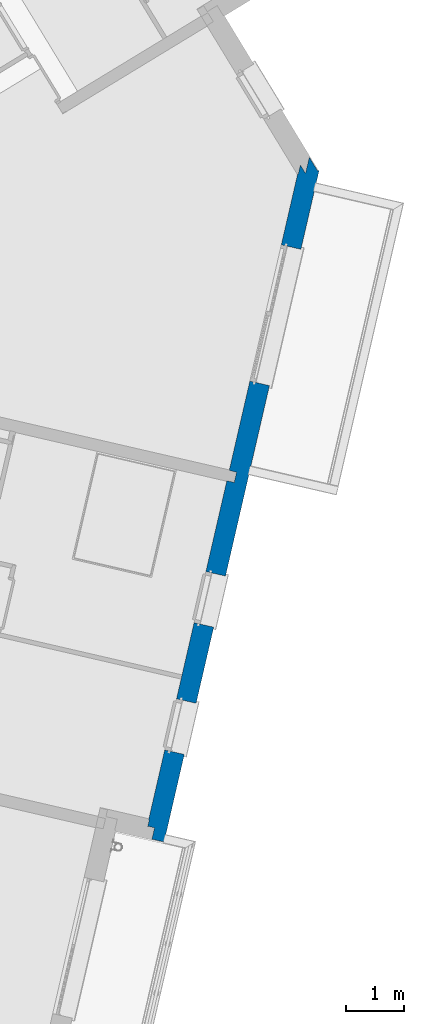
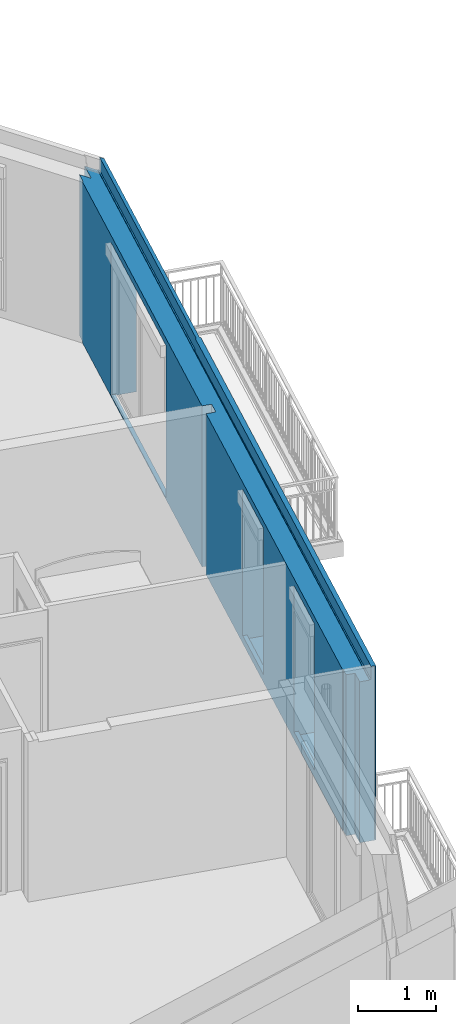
# One storey, part 37 of 90: 1 wall, 3 openings.
"""IFC2X3 building model written with IfcOpenShell, lengths in metres."""

from ifc_helpers import new_model, entity, si_unit, converted_unit, derived_unit, money_unit, direction, frame, origin_with_axes, place, context, subcontext, project, spatial, faceted_brep, material, material_list, type_object, element, save


model = new_model("IFC2X3")

# Units and contexts
model_context = context("Model", 3, precision=1e-05, world=origin_with_axes(), true_north=direction((0.0, 1.0)))
body_context = subcontext(model_context, "Body", "Model", "MODEL_VIEW")
ifc_project = project(units=[si_unit("LENGTHUNIT", "METRE"), si_unit("AREAUNIT", "SQUARE_METRE"), si_unit("VOLUMEUNIT", "CUBIC_METRE"), converted_unit("PLANEANGLEUNIT", "DEGREE", entity("IfcPlaneAngleMeasure", 0.0174532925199), si_unit("PLANEANGLEUNIT", "RADIAN"), dimensions=[0, 0, 0, 0, 0, 0, 0]), si_unit("SOLIDANGLEUNIT", "STERADIAN"), money_unit("EUR"), converted_unit("TIMEUNIT", "Year", entity("IfcTimeMeasure", 31556926.0), si_unit("TIMEUNIT", "SECOND"), dimensions=[0, 0, 1, 0, 0, 0, 0]), si_unit("MASSUNIT", "GRAM", prefix="KILO"), si_unit("THERMODYNAMICTEMPERATUREUNIT", "DEGREE_CELSIUS"), si_unit("LUMINOUSINTENSITYUNIT", "LUMEN"), si_unit("ENERGYUNIT", "JOULE", prefix="MEGA"), derived_unit("THERMALCONDUCTANCEUNIT", [(si_unit("POWERUNIT", "WATT"), 1), (si_unit("LENGTHUNIT", "METRE"), -1), (si_unit("THERMODYNAMICTEMPERATUREUNIT", "KELVIN"), -1)]), derived_unit("SPECIFICHEATCAPACITYUNIT", [(si_unit("ENERGYUNIT", "JOULE"), 1), (si_unit("MASSUNIT", "GRAM", prefix="KILO"), -1), (si_unit("THERMODYNAMICTEMPERATUREUNIT", "KELVIN"), -1)]), derived_unit("MASSDENSITYUNIT", [(si_unit("MASSUNIT", "GRAM", prefix="KILO"), 1), (si_unit("VOLUMEUNIT", "CUBIC_METRE"), -1)])], contexts=[model_context])

# Site, building, storey
site_placement = place(None, origin_with_axes())
site = spatial("IfcSite", under=ifc_project, at=site_placement, Name="Site", CompositionType="ELEMENT")
building_placement = place(site_placement, origin_with_axes())
building = spatial("IfcBuilding", under=site, at=building_placement, Name="Bâtiment", CompositionType="ELEMENT")
storey_placement = place(building_placement, frame((0.0, 0.0, 2.72), z_axis=(0.0, 0.0, 1.0), x_axis=(1.0, 0.0, 0.0)))
storey = spatial("IfcBuildingStorey", under=building, at=storey_placement, Name="R+1", CompositionType="ELEMENT", Elevation=2.72)

# Wall, openings
ifc_material_1 = material(Name="Finition ext - Crépis")
ifc_material_2 = material(Name="Béton cellulaire")
ifc_material_3 = material(Name="Mortier")
ifc_material_4 = material(Name="Isolation - Polystyrène expansé")
ifc_material_5 = material(Name="Bloc ELITHERM")
ifc_material_6 = material(Name="Isolation - Polystyrène extrudé")
ifc_material_7 = material(Name="Finition int - Plaque de plâtre")
ifc_material_list = material_list([ifc_material_1, ifc_material_2, ifc_material_3, ifc_material_4, ifc_material_5, ifc_material_6, ifc_material_7])
wall_type = type_object("IfcWallType", Name="Mur ALKERN + planelle 21 345 x 2720", PredefinedType="USERDEFINED")
wall_placement = place(storey_placement, frame((2.3784914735, 17.9848596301, 0.0), z_axis=(0.0, 0.0, 1.0), x_axis=(-0.22487619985, -0.974387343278, 0.0)))
wall = element("IfcWall", 1, at=wall_placement, inside=storey, type_object=wall_type, material=ifc_material_list, Name="Mue bloc ALKERN isolé", ObjectType="SOLIDWALL", context=body_context, shape_type="Brep", body=[
    faceted_brep([(7.13048448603, -0.0149999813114, 0.12), (7.13048448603, 6.76768197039e-09, 0.12), (7.13048448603, 6.76768197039e-09, 2.22), (7.13048448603, -0.0149999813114, 2.22), (7.13048448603, 3.70673491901e-09, 0.06), (7.13048448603, -0.0150000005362, 0.06), (11.6895867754, 6.76768041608e-09, 0.0193762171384), (11.6796062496, 6.76767908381e-09, 0.01), (11.6796062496, 0.0, 0.0), (5.35022065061, 3.70673580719e-09, 0.0), (5.35022065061, 6.76768197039e-09, 0.01), (5.34024012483, 6.76768219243e-09, 0.0193762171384), (5.2002011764, 6.76768263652e-09, 0.0106237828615), (5.19022065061, 3.79827413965e-09, 0.0), (3.77543741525, 4.60769511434e-09, 0.0), (3.77543741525, 2.08871586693e-10, 0.02), (3.77543741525, 2.08871808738e-10, 2.22), (1.37543741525, 2.08872474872e-10, 2.22), (1.37543741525, 2.08872474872e-10, 0.02), (1.37543741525, 5.98077454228e-09, 0.0), (0.360654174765, 6.56134879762e-09, 0.0), (0.35067364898, 6.76768419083e-09, 0.0106237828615), (0.21063470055, 6.76768419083e-09, 0.0193762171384), (0.200654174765, 6.76768419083e-09, 0.01), (0.200654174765, 6.65288757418e-09, 0.0), (1.4466266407e-08, 6.76768374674e-09, 0.0), (9.62828750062e-09, -1.84539121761e-08, 2.51), (4.17307971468, 2.08871364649e-10, 2.51), (4.17307971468, 2.08871364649e-10, 2.51999999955), (4.17307971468, 2.08871364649e-10, 2.60999999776), (4.17307971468, 2.08871364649e-10, 2.70288199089), (4.17307971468, 2.08871364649e-10, 2.72), (11.8292206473, 0.0, 2.72), (11.8292206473, 0.0, 0.0106491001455), (10.2716642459, 2.08869144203e-10, 0.06), (10.2716642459, 2.08869144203e-10, 0.12), (10.2716642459, 2.08868700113e-10, 2.22), (9.37166424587, 2.08869144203e-10, 2.22), (9.37166424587, 2.08869366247e-10, 0.12), (9.37166424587, 2.08869588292e-10, 0.06), (8.03048448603, 3.7067353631e-09, 0.06), (8.03048448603, 6.7676815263e-09, 0.12), (8.03048448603, 6.76768108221e-09, 2.22), (8.03048448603, -0.0149999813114, 2.22), (4.17307971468, -0.0150000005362, 2.72), (4.17307971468, -0.0150000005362, 2.70288199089), (4.17307971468, -0.0150000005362, 2.60999999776), (4.17307971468, -0.0150000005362, 2.51999999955), (4.17307971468, -0.0150000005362, 2.51), (-0.0153781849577, -0.0150000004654, 2.51), (-0.0153781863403, -0.0149999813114, 0.0), (0.200654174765, -0.0150000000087, 0.0), (0.200654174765, -0.0150000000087, 0.01), (0.21063470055, -0.0150000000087, 0.0193762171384), (0.35067364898, -0.0150000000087, 0.0106237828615), (0.360654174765, -0.0150000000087, 0.0), (1.37543741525, -0.0149999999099, 0.0), (1.37543741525, -0.0149999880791, 0.02), (1.37543741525, -0.0149999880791, 2.22), (3.77543741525, -0.0149999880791, 2.22), (3.77543741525, -0.0149999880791, 0.02), (3.77543741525, -0.0149999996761, 0.0), (5.19022065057, -0.0149999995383, 0.0), (5.20020117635, -0.0149999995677, 0.0106237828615), (5.34024012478, -0.0149999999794, 0.0193762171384), (5.35022065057, -0.0150000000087, 0.01), (5.35022065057, -0.0150000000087, 0.0), (11.6796062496, -0.0150000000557, 0.0), (11.6796062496, -0.0150000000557, 0.01), (11.6895867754, -0.0150000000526, 0.0193762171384), (11.8292206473, -0.0150000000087, 0.0106491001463), (11.8292206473, -0.0149999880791, 2.72), (9.37166424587, -0.0150000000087, 0.06), (9.37166424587, -0.0149999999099, 0.12), (9.37166424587, -0.0149999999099, 2.22), (10.2716642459, -0.0149999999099, 2.22), (10.2716642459, -0.0149999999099, 0.12), (10.2716642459, -0.0150000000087, 0.06), (8.03048448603, -0.0149999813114, 0.12), (8.03048448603, -0.0150000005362, 0.06)], [[[0, 1, 2, 3]], [[4, 1, 0, 5]], [[6, 7, 8, 9, 10, 11, 12, 13, 14, 15, 16, 17, 18, 19, 20, 21, 22, 23, 24, 25, 26, 27, 28, 29, 30, 31, 32, 33], [34, 35, 36, 37, 38, 39], [40, 41, 42, 2, 1, 4]], [[42, 43, 3, 2]], [[44, 45, 46, 47, 48, 49, 50, 51, 52, 53, 54, 55, 56, 57, 58, 59, 60, 61, 62, 63, 64, 65, 66, 67, 68, 69, 70, 71], [72, 73, 74, 75, 76, 77], [5, 0, 3, 43, 78, 79]], [[40, 4, 5, 79]], [[6, 69, 68, 7]], [[7, 68, 67, 8]], [[9, 8, 67, 66]], [[9, 66, 65, 10]], [[10, 65, 64, 11]], [[11, 64, 63, 12]], [[13, 12, 63, 62]], [[61, 14, 13, 62]], [[60, 15, 14, 61]], [[15, 60, 59, 16]], [[16, 59, 58, 17]], [[57, 18, 17, 58]], [[19, 18, 57, 56]], [[19, 56, 55, 20]], [[20, 55, 54, 21]], [[21, 54, 53, 22]], [[22, 53, 52, 23]], [[23, 52, 51, 24]], [[51, 50, 25, 24]], [[26, 25, 50, 49]], [[26, 49, 48, 27]], [[28, 27, 48, 47]], [[29, 28, 47, 46]], [[30, 29, 46, 45]], [[31, 30, 45, 44]], [[44, 71, 32, 31]], [[33, 32, 71, 70]], [[33, 70, 69, 6]], [[34, 77, 76, 35]], [[75, 36, 35, 76]], [[74, 37, 36, 75]], [[37, 74, 73, 38]], [[73, 72, 39, 38]], [[72, 77, 34, 39]], [[78, 41, 40, 79]], [[41, 78, 43, 42]]]),
    faceted_brep([(0.00610408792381, -0.0149999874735, 2.70288199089), (0.00610408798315, -0.0149999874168, 2.71999999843), (11.8142206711, -0.0149999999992, 2.72), (11.8142206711, -0.015, 2.51999999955), (0.00610408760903, -0.0149999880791, 2.51999999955), (0.00610408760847, -0.014999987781, 2.60999999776), (-0.0431062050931, -0.0629999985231, 2.71999999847), (-0.0431062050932, -0.0629999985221, 2.70288199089), (11.8142206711, -0.0629999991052, 2.72), (11.8142206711, -0.0629999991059, 2.51999999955), (-0.0431062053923, -0.0629999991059, 2.5199999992), (-0.0431062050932, -0.0629999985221, 2.60999999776)], [[[0, 1, 2, 3, 4, 5]], [[6, 1, 0, 7]], [[1, 6, 8, 2]], [[3, 2, 8, 9]], [[10, 4, 3, 9]], [[11, 5, 4, 10]], [[7, 0, 5, 11]], [[6, 7, 11, 10, 9, 8]]]),
    faceted_brep([(0.00610408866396, -0.0149999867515, 2.50999999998), (0.00610408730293, -0.0149999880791, 2.51999999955), (11.8142206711, -0.015, 2.51999999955), (11.8142206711, -0.0149999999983, 2.50999999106), (-0.0636104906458, -0.083, 2.51999999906), (-0.0636104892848, -0.0829999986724, 2.51000000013), (11.8142206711, -0.083, 2.51999999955), (11.8142206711, -0.0829999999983, 2.50999999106)], [[[0, 1, 2, 3]], [[4, 1, 0, 5]], [[1, 4, 6, 2]], [[3, 2, 6, 7]], [[5, 0, 3, 7]], [[4, 5, 7, 6]]]),
    faceted_brep([(4.17307971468, -0.0759631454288, 2.70288199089), (4.17307971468, -0.0759631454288, 2.72), (4.17307971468, -0.0629999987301, 2.71999999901), (4.17307971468, -0.0629999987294, 2.70288199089), (11.7662206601, -0.0631402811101, 2.72), (4.17307971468, -0.0759631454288, 2.60999999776), (4.17307971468, -0.0759631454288, 2.51999999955), (11.7662206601, -0.0631402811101, 2.51999999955), (11.7662206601, -0.0630000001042, 2.72), (4.17307971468, -0.0629999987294, 2.60999999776), (11.7662206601, -0.0630000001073, 2.51999999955), (4.17307971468, -0.0629999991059, 2.51999999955)], [[[0, 1, 2, 3]], [[4, 1, 0, 5, 6, 7]], [[1, 4, 8, 2]], [[9, 3, 2, 8, 10, 11]], [[5, 0, 3, 9]], [[6, 5, 9, 11]], [[7, 6, 11, 10]], [[4, 7, 10, 8]]]),
    faceted_brep([(7.13048448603, -0.214999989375, 0.12), (7.13048448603, -0.214999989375, 0.06), (7.13048448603, -0.014999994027, 0.06), (7.13048448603, -0.0149999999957, 0.12), (7.13048448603, -0.0149999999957, 2.22), (7.13048448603, -0.214999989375, 2.22), (-0.1989387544, -0.214999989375, 2.51000000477), (-0.198938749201, -0.214999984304, 0.0), (1.37543741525, -0.214999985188, 0.0), (1.37543741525, -0.214999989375, 0.02), (1.37543741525, -0.214999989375, 2.22), (3.77543741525, -0.214999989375, 2.22), (3.77543741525, -0.214999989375, 0.02), (3.77543741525, -0.214999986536, 0.0), (11.814220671, -0.214999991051, 0.0), (11.814220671, -0.214999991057, 2.50999999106), (9.37166424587, -0.214999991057, 0.06), (9.37166424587, -0.214999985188, 0.12), (9.37166424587, -0.214999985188, 2.22), (10.2716642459, -0.214999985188, 2.22), (10.2716642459, -0.214999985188, 0.12), (10.2716642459, -0.214999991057, 0.06), (8.03048448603, -0.214999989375, 2.22), (8.03048448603, -0.214999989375, 0.12), (8.03048448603, -0.214999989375, 0.06), (8.03048448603, -0.014999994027, 0.06), (3.77543741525, -0.0149999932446, 2.22), (1.37543741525, -0.0149999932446, 2.22), (1.37543741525, -0.0149999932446, 0.02), (1.37543741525, -0.014999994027, 0.0), (0.00610408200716, -0.0149999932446, 0.0), (0.00610407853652, -0.0149999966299, 2.51000000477), (11.8142206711, -0.0149999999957, 2.50999999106), (11.8142206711, -0.0149999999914, 0.0), (3.77543741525, -0.0149999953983, 0.0), (3.77543741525, -0.0149999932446, 0.02), (10.2716642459, -0.0149999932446, 0.06), (10.2716642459, -0.0149999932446, 0.12), (10.2716642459, -0.0149999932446, 2.22), (9.37166424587, -0.0149999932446, 2.22), (9.37166424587, -0.0149999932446, 0.12), (9.37166424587, -0.0149999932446, 0.06), (8.03048448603, -0.0149999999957, 0.12), (8.03048448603, -0.0149999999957, 2.22), (-0.0636104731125, -0.0829999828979, 2.51000000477), (11.8142206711, -0.0829999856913, 2.50999999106)], [[[0, 1, 2, 3, 4, 5]], [[6, 7, 8, 9, 10, 11, 12, 13, 14, 15], [16, 17, 18, 19, 20, 21], [1, 0, 5, 22, 23, 24]], [[25, 2, 1, 24]], [[26, 27, 28, 29, 30, 31, 32, 33, 34, 35], [36, 37, 38, 39, 40, 41], [25, 42, 43, 4, 3, 2]], [[43, 22, 5, 4]], [[30, 7, 6, 44, 31]], [[29, 8, 7, 30]], [[9, 8, 29, 28, 27, 10]], [[26, 11, 10, 27]], [[35, 34, 13, 12, 11, 26]], [[13, 34, 33, 14]], [[45, 15, 14, 33, 32]], [[15, 45, 44, 6]], [[17, 16, 41, 40, 39, 18]], [[18, 39, 38, 19]], [[37, 36, 21, 20, 19, 38]], [[16, 21, 36, 41]], [[42, 25, 24, 23, 22, 43]], [[45, 32, 31, 44]]]),
    faceted_brep([(7.13048448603, -0.286, 0.12), (7.13048448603, -0.286, 0.06), (7.13048448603, -0.215000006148, 0.06), (7.13048448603, -0.215000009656, 0.12), (7.13048448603, -0.215, 2.22), (7.13048448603, -0.215, 2.4), (7.13048448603, -0.335000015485, 2.4), (7.13048448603, -0.335000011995, 2.22), (7.13048448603, -0.335000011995, 0.12), (8.03048448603, -0.286, 0.12), (8.03048448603, -0.286, 0.06), (8.03048448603, -0.215000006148, 0.06), (5.53022065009, -0.215000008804, 2.51000000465), (11.614220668, -0.215000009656, 2.50999999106), (11.614220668, -0.215000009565, 0.0), (5.53022065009, -0.215000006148, 0.0), (9.37166424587, -0.215, 2.4), (9.37166424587, -0.215, 2.22), (9.37166424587, -0.215000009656, 0.12), (9.37166424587, -0.215000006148, 0.06), (10.2716642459, -0.215000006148, 0.06), (10.2716642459, -0.215000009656, 0.12), (10.2716642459, -0.215, 2.22), (10.2716642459, -0.215, 2.4), (8.03048448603, -0.215000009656, 0.12), (8.03048448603, -0.215, 2.22), (8.03048448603, -0.215, 2.4), (8.03048448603, -0.335000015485, 2.4), (5.53022065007, -0.335000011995, 0.0), (11.614220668, -0.335000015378, 0.0), (11.614220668, -0.335000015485, 2.50999999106), (5.53022065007, -0.335000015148, 2.51000000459), (9.37166424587, -0.335000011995, 0.12), (9.37166424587, -0.335000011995, 2.22), (9.37166424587, -0.335000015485, 2.4), (10.2716642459, -0.335000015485, 2.4), (10.2716642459, -0.335000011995, 2.22), (10.2716642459, -0.335000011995, 0.12), (8.03048448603, -0.335000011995, 2.22), (8.03048448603, -0.335000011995, 0.12), (9.37166424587, -0.286, 0.12), (9.37166424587, -0.286, 0.06), (10.2716642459, -0.286, 0.06), (10.2716642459, -0.286, 0.12)], [[[0, 1, 2, 3, 4, 5, 6, 7, 8]], [[0, 9, 10, 1]], [[11, 2, 1, 10]], [[12, 13, 14, 15], [16, 17, 18, 19, 20, 21, 22, 23], [11, 24, 25, 26, 5, 4, 3, 2]], [[26, 27, 6, 5]], [[28, 29, 30, 31], [32, 33, 34, 35, 36, 37], [8, 7, 6, 27, 38, 39]], [[9, 0, 8, 39]], [[24, 11, 10, 9, 39, 38, 27, 26, 25]], [[31, 30, 13, 12]], [[29, 14, 13, 30]], [[15, 14, 29, 28]], [[28, 31, 12, 15]], [[34, 33, 32, 40, 41, 19, 18, 17, 16]], [[20, 19, 41, 42]], [[35, 23, 22, 21, 20, 42, 43, 37, 36]], [[23, 35, 34, 16]], [[43, 40, 32, 37]], [[40, 43, 42, 41]]]),
    faceted_brep([(1.37543741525, -0.286, 0.02), (1.37543741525, -0.286, 0.0), (1.37543741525, -0.215000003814, 0.0), (1.37543741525, -0.215000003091, 0.02), (1.37543741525, -0.215, 2.22), (1.37543741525, -0.215, 2.4), (1.37543741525, -0.335000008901, 2.4), (1.37543741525, -0.335000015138, 2.22), (1.37543741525, -0.335000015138, 0.02), (3.77543741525, -0.286, 0.02), (3.77543741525, -0.286, 0.0), (3.77543741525, -0.215000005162, 0.0), (5.35022065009, -0.215000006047, 0.0), (5.35022065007, -0.335000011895, 0.0), (-0.0355337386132, -0.335000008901, 0.0), (0.0874919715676, -0.215000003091, 0.0), (3.77543741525, -0.215000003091, 0.02), (3.77543741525, -0.215, 2.22), (3.77543741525, -0.215, 2.4), (0.0874919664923, -0.215000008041, 2.51000000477), (5.35022065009, -0.215000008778, 2.51000000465), (3.77543741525, -0.335000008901, 2.4), (5.35022065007, -0.335000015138, 2.51000000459), (-0.0355337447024, -0.33500001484, 2.51000000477), (3.77543741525, -0.335000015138, 2.22), (3.77543741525, -0.335000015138, 0.02)], [[[0, 1, 2, 3, 4, 5, 6, 7, 8]], [[0, 9, 10, 1]], [[10, 11, 12, 13, 14, 15, 2, 1]], [[11, 16, 17, 18, 5, 4, 3, 2, 15, 19, 20, 12]], [[18, 21, 6, 5]], [[22, 23, 14, 13], [8, 7, 6, 21, 24, 25]], [[9, 0, 8, 25]], [[16, 11, 10, 9, 25, 24, 21, 18, 17]], [[13, 12, 20, 22]], [[14, 23, 19, 15]], [[20, 19, 23, 22]]]),
    faceted_brep([(5.53022065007, -0.335000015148, 2.51000000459), (11.4942206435, -0.335000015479, 2.51), (11.4942206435, -0.335000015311, 0.0), (5.53022065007, -0.335000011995, 0.0), (10.2716642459, -0.335000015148, 2.22), (10.2716642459, -0.335000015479, 2.4), (9.37166424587, -0.335000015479, 2.4), (9.37166424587, -0.335000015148, 2.22), (9.37166424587, -0.335000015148, 0.12), (10.2716642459, -0.335000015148, 0.12), (8.03048448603, -0.335000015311, 2.22), (8.03048448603, -0.335000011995, 2.4), (7.13048448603, -0.335000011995, 2.4), (7.13048448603, -0.335000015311, 2.22), (7.13048448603, -0.335000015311, 0.12), (8.03048448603, -0.335000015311, 0.12), (5.53022065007, -0.344999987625, 2.51000000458), (11.4942206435, -0.344999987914, 2.51), (11.4942206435, -0.344999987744, 0.0), (5.53022065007, -0.344999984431, 0.0), (10.2716642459, -0.344999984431, 2.22), (10.2716642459, -0.344999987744, 2.4), (10.2716642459, -0.344999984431, 0.12), (9.37166424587, -0.344999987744, 2.4), (9.37166424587, -0.344999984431, 2.22), (9.37166424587, -0.344999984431, 0.12), (8.03048448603, -0.344999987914, 2.22), (8.03048448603, -0.344999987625, 2.4), (8.03048448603, -0.344999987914, 0.12), (7.13048448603, -0.344999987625, 2.4), (7.13048448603, -0.344999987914, 2.22), (7.13048448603, -0.344999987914, 0.12)], [[[0, 1, 2, 3], [4, 5, 6, 7, 8, 9], [10, 11, 12, 13, 14, 15]], [[16, 17, 1, 0]], [[18, 2, 1, 17]], [[3, 2, 18, 19]], [[19, 16, 0, 3]], [[20, 21, 5, 4, 9, 22]], [[21, 23, 6, 5]], [[7, 6, 23, 24, 25, 8]], [[22, 9, 8, 25]], [[26, 27, 11, 10, 15, 28]], [[12, 11, 27, 29]], [[13, 12, 29, 30, 31, 14]], [[14, 31, 28, 15]], [[19, 18, 17, 16], [21, 20, 22, 25, 24, 23], [27, 26, 28, 31, 30, 29]]]),
    faceted_brep([(0.136324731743, -0.33500001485, 2.51000000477), (5.35022065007, -0.335000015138, 2.51000000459), (5.35022065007, -0.335000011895, 0.0), (0.136324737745, -0.335000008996, 0.0), (3.77543741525, -0.335000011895, 2.22), (3.77543741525, -0.335000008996, 2.4), (1.37543741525, -0.335000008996, 2.4), (1.37543741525, -0.335000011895, 2.22), (1.37543741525, -0.335000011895, 0.02), (3.77543741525, -0.335000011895, 0.02), (0.126072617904, -0.344999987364, 2.51000000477), (5.35022065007, -0.344999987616, 2.51000000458), (5.35022065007, -0.344999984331, 0.0), (0.126072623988, -0.344999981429, 0.0), (3.77543741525, -0.344999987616, 2.22), (3.77543741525, -0.344999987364, 2.4), (3.77543741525, -0.344999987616, 0.02), (1.37543741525, -0.344999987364, 2.4), (1.37543741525, -0.344999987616, 2.22), (1.37543741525, -0.344999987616, 0.02)], [[[0, 1, 2, 3], [4, 5, 6, 7, 8, 9]], [[10, 11, 1, 0]], [[1, 11, 12, 2]], [[3, 2, 12, 13]], [[0, 3, 13, 10]], [[14, 15, 5, 4, 9, 16]], [[6, 5, 15, 17]], [[7, 6, 17, 18, 19, 8]], [[8, 19, 16, 9]], [[13, 12, 11, 10], [15, 14, 16, 19, 18, 17]]]),
])
opening_1_placement = place(wall_placement, frame((2.57543741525, 0.0, 0.02), z_axis=(0.0, 0.0, 1.0), x_axis=(1.0, 0.0, 0.0)))
element("IfcOpeningElement", 2, at=opening_1_placement, cuts=wall, Name="MEN 38", context=body_context, shape_type="Brep", body=[
    faceted_brep([(-1.2, -0.245, 0.0), (1.2, -0.245, 0.0), (1.2, -0.83499998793, 0.0), (-1.2, -0.83499998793, 0.0), (-1.2, -0.245, 2.2), (1.2, -0.245, 2.2), (1.2, -0.83499998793, 2.2), (-1.2, -0.83499998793, 2.2)], [[[0, 1, 2, 3]], [[0, 4, 5, 1]], [[1, 5, 6, 2]], [[3, 2, 6, 7]], [[4, 0, 3, 7]], [[5, 4, 7, 6]]]),
    faceted_brep([(-1.2, -0.245, 0.0), (-1.2, -0.245, 2.2), (-1.2, 0.34499998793, 2.2), (-1.2, 0.34499998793, 0.0), (1.2, -0.245, 0.0), (1.2, -0.245, 2.2), (1.2, 0.34499998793, 2.2), (1.2, 0.34499998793, 0.0)], [[[0, 1, 2, 3]], [[0, 4, 5, 1]], [[1, 5, 6, 2]], [[3, 2, 6, 7]], [[4, 0, 3, 7]], [[5, 4, 7, 6]]]),
    faceted_brep([(-1.2, -0.245, 0.0), (-1.2, -0.245, 2.2), (-1.2, 0.34499998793, 2.2), (-1.2, 0.34499998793, 0.0), (1.2, -0.245, 0.0), (1.2, -0.245, 2.2), (1.2, 0.34499998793, 2.2), (1.2, 0.34499998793, 0.0)], [[[0, 1, 2, 3]], [[0, 4, 5, 1]], [[1, 5, 6, 2]], [[3, 2, 6, 7]], [[4, 0, 3, 7]], [[5, 4, 7, 6]]]),
    faceted_brep([(-1.2, -0.215, 2.2), (1.2, -0.215, 2.2), (1.2, -0.80499998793, 2.2), (-1.2, -0.80499998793, 2.2), (-1.2, -0.215, 2.38), (1.2, -0.215, 2.38), (1.2, -0.80499998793, 2.38), (-1.2, -0.80499998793, 2.38)], [[[0, 1, 2, 3]], [[0, 4, 5, 1]], [[1, 5, 6, 2]], [[3, 2, 6, 7]], [[4, 0, 3, 7]], [[5, 4, 7, 6]]]),
    faceted_brep([(-1.2, -0.286, 0.0), (1.2, -0.286, 0.0), (1.2, 0.30399998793, 0.0), (-1.2, 0.30399998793, 0.0), (-1.2, -0.286, -0.06), (1.2, -0.286, -0.06), (1.2, 0.30399998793, -0.06), (-1.2, 0.30399998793, -0.06)], [[[0, 1, 2, 3]], [[0, 4, 5, 1]], [[1, 5, 6, 2]], [[3, 2, 6, 7]], [[4, 0, 3, 7]], [[5, 4, 7, 6]]]),
])
opening_2_placement = place(wall_placement, frame((9.82166424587, 0.0, 0.12), z_axis=(0.0, 0.0, 1.0), x_axis=(1.0, 0.0, 0.0)))
element("IfcOpeningElement", 3, at=opening_2_placement, cuts=wall, Name="MEN 36", context=body_context, shape_type="Brep", body=[
    faceted_brep([(0.45, -0.83499998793, 0.0), (-0.45, -0.83499998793, 0.0), (-0.45, -0.245, 0.0), (0.45, -0.245, 0.0), (0.45, -0.83499998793, 2.1), (-0.45, -0.83499998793, 2.1), (-0.45, -0.245, 2.1), (0.45, -0.245, 2.1)], [[[0, 1, 2, 3]], [[0, 4, 5, 1]], [[1, 5, 6, 2]], [[3, 2, 6, 7]], [[4, 0, 3, 7]], [[5, 4, 7, 6]]]),
    faceted_brep([(0.45, 0.34499998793, 0.0), (0.45, 0.34499998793, 2.1), (0.45, -0.245, 2.1), (0.45, -0.245, 0.0), (-0.45, 0.34499998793, 0.0), (-0.45, 0.34499998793, 2.1), (-0.45, -0.245, 2.1), (-0.45, -0.245, 0.0)], [[[0, 1, 2, 3]], [[0, 4, 5, 1]], [[1, 5, 6, 2]], [[3, 2, 6, 7]], [[4, 0, 3, 7]], [[5, 4, 7, 6]]]),
    faceted_brep([(0.45, 0.34499998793, 0.0), (0.45, 0.34499998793, 2.1), (0.45, -0.245, 2.1), (0.45, -0.245, 0.0), (-0.45, 0.34499998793, 0.0), (-0.45, 0.34499998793, 2.1), (-0.45, -0.245, 2.1), (-0.45, -0.245, 0.0)], [[[0, 1, 2, 3]], [[0, 4, 5, 1]], [[1, 5, 6, 2]], [[3, 2, 6, 7]], [[4, 0, 3, 7]], [[5, 4, 7, 6]]]),
    faceted_brep([(0.45, -0.80499998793, 2.1), (-0.45, -0.80499998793, 2.1), (-0.45, -0.215, 2.1), (0.45, -0.215, 2.1), (0.45, -0.80499998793, 2.28), (-0.45, -0.80499998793, 2.28), (-0.45, -0.215, 2.28), (0.45, -0.215, 2.28)], [[[0, 1, 2, 3]], [[0, 4, 5, 1]], [[1, 5, 6, 2]], [[3, 2, 6, 7]], [[4, 0, 3, 7]], [[5, 4, 7, 6]]]),
    faceted_brep([(0.45, 0.30399998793, 0.0), (-0.45, 0.30399998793, 0.0), (-0.45, -0.286, 0.0), (0.45, -0.286, 0.0), (0.45, 0.30399998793, -0.06), (-0.45, 0.30399998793, -0.06), (-0.45, -0.286, -0.06), (0.45, -0.286, -0.06)], [[[0, 1, 2, 3]], [[0, 4, 5, 1]], [[1, 5, 6, 2]], [[3, 2, 6, 7]], [[4, 0, 3, 7]], [[5, 4, 7, 6]]]),
])
opening_3_placement = place(wall_placement, frame((7.58048448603, 0.0, 0.12), z_axis=(0.0, 0.0, 1.0), x_axis=(1.0, 0.0, 0.0)))
element("IfcOpeningElement", 4, at=opening_3_placement, cuts=wall, Name="MEN 37", context=body_context, shape_type="Brep", body=[
    faceted_brep([(-0.45, -0.245, 0.0), (0.45, -0.245, 0.0), (0.45, -0.83499998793, 0.0), (-0.45, -0.83499998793, 0.0), (-0.45, -0.245, 2.1), (0.45, -0.245, 2.1), (0.45, -0.83499998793, 2.1), (-0.45, -0.83499998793, 2.1)], [[[0, 1, 2, 3]], [[0, 4, 5, 1]], [[1, 5, 6, 2]], [[3, 2, 6, 7]], [[4, 0, 3, 7]], [[5, 4, 7, 6]]]),
    faceted_brep([(-0.45, -0.245, 0.0), (-0.45, -0.245, 2.1), (-0.45, 0.34499998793, 2.1), (-0.45, 0.34499998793, 0.0), (0.45, -0.245, 0.0), (0.45, -0.245, 2.1), (0.45, 0.34499998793, 2.1), (0.45, 0.34499998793, 0.0)], [[[0, 1, 2, 3]], [[0, 4, 5, 1]], [[1, 5, 6, 2]], [[3, 2, 6, 7]], [[4, 0, 3, 7]], [[5, 4, 7, 6]]]),
    faceted_brep([(-0.45, -0.245, 0.0), (-0.45, -0.245, 2.1), (-0.45, 0.34499998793, 2.1), (-0.45, 0.34499998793, 0.0), (0.45, -0.245, 0.0), (0.45, -0.245, 2.1), (0.45, 0.34499998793, 2.1), (0.45, 0.34499998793, 0.0)], [[[0, 1, 2, 3]], [[0, 4, 5, 1]], [[1, 5, 6, 2]], [[3, 2, 6, 7]], [[4, 0, 3, 7]], [[5, 4, 7, 6]]]),
    faceted_brep([(-0.45, -0.215, 2.1), (0.45, -0.215, 2.1), (0.45, -0.80499998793, 2.1), (-0.45, -0.80499998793, 2.1), (-0.45, -0.215, 2.28), (0.45, -0.215, 2.28), (0.45, -0.80499998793, 2.28), (-0.45, -0.80499998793, 2.28)], [[[0, 1, 2, 3]], [[0, 4, 5, 1]], [[1, 5, 6, 2]], [[3, 2, 6, 7]], [[4, 0, 3, 7]], [[5, 4, 7, 6]]]),
    faceted_brep([(-0.45, -0.286, 0.0), (0.45, -0.286, 0.0), (0.45, 0.30399998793, 0.0), (-0.45, 0.30399998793, 0.0), (-0.45, -0.286, -0.06), (0.45, -0.286, -0.06), (0.45, 0.30399998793, -0.06), (-0.45, 0.30399998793, -0.06)], [[[0, 1, 2, 3]], [[0, 4, 5, 1]], [[1, 5, 6, 2]], [[3, 2, 6, 7]], [[4, 0, 3, 7]], [[5, 4, 7, 6]]]),
])

save(model, "model.ifc")
